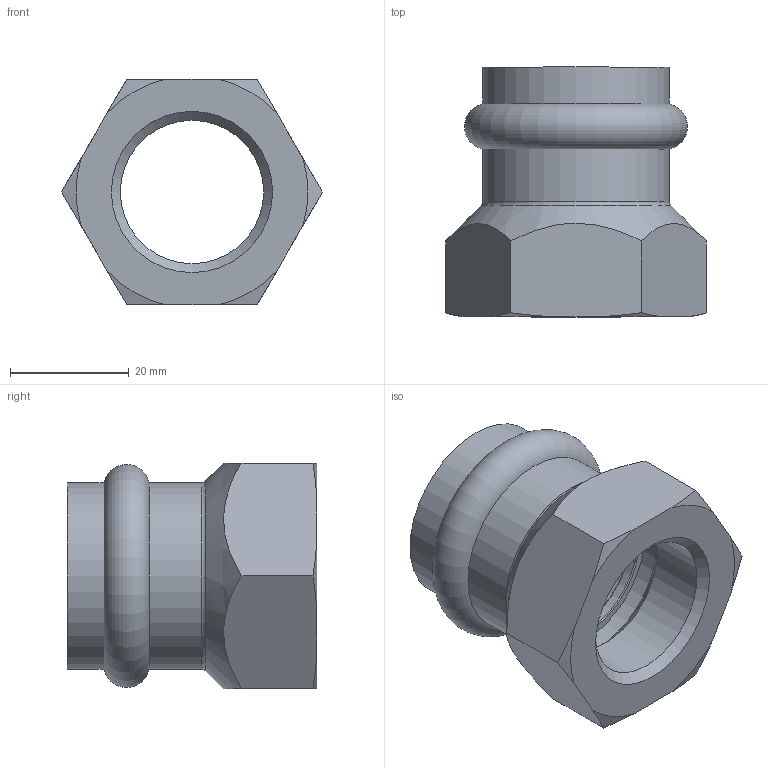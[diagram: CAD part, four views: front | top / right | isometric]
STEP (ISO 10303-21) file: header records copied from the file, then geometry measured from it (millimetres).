
FILE_DESCRIPTION(/* description */ (''),/* implementation_level */ '2;1');
FILE_NAME(/* name */ 'C:\Users\Vault\Desktop\Articoli_INOXPRES UNIKO\190_INOXPRES_UNIKO\190304028U_Inoxpres_Uniko.stp',/* time_stamp */ '2022-10-06T11:37:26+02:00',/* author */ ('Vault'),/* organization */ ('Raccorderie metalliche s.p.a.'),/* preprocessor_version */ 'ST-DEVELOPER v18.1',/* originating_system */ 'Autodesk Inventor 2020',/* authorisation */ 'Raccorderie metalliche s.p.a.');
FILE_SCHEMA (('AUTOMOTIVE_DESIGN { 1 0 10303 214 3 1 1 }'));
Length unit declared in the file: millimetre
Products named in the file (1): 190304028V_Inoxpres_Uniko
Bounding box: 43.88 x 42 x 38 mm (x, y, z)
Volume: 17990.5 mm3; surface area: 10055 mm2
Topology: 1 solids, 1 shells, 34 faces, 93 edges, 63 vertices
Faces by surface type: cone 13, plane 10, cylinder 7, torus 4
Full cylindrical faces by diameter (mm): 24.12 x1, 25.4 x1, 28 x1, 28.4 x2, 31.4 x2
Entity records: 1135 total; most frequent: CARTESIAN_POINT 229, DIRECTION 192, ORIENTED_EDGE 186, EDGE_CURVE 93, AXIS2_PLACEMENT_3D 83, VERTEX_POINT 63, CIRCLE 48, EDGE_LOOP 38
